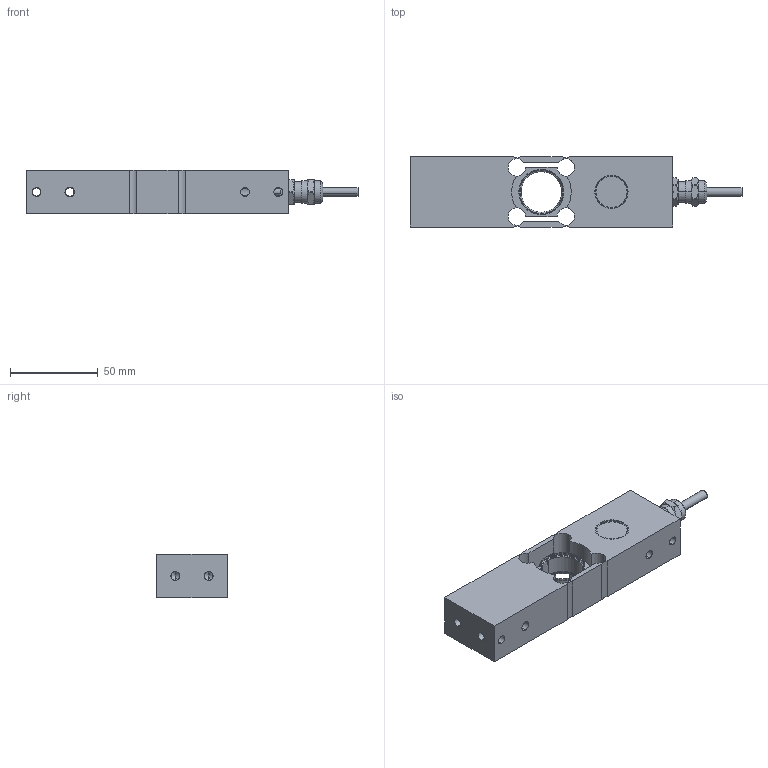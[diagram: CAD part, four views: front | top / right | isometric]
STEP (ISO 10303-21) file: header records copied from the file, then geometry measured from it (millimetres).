
FILE_DESCRIPTION (( 'STEP AP214' ), '1' );
FILE_NAME ('BM6G-20kg assy.STEP', '2012-06-11T14:13:45', ( 'gebruiker' ), ( '' ), 'SwSTEP 2.0', 'SolidWorks 2011', '' );
FILE_SCHEMA (( 'AUTOMOTIVE_DESIGN' ));
Length unit declared in the file: millimetre
Products named in the file (10): j-box cover; Cable 5mm diameter; BM6G cable gland assy; BM14G gland O-ring; BM14G Gland head; BM14G gland rubber; BM6G base parts; Tube; Element 20kg; BM6G-20kg assy
Assembly tree (9 placements, depth 3):
  BM6G-20kg assy
    BM6G cable gland assy
      BM14G Gland head
      BM14G gland O-ring
      BM6G base parts
      BM14G gland rubber
    Tube
    Cable 5mm diameter
    Element 20kg
    j-box cover
Bounding box: 189.5 x 40 x 25 mm (x, y, z)
Volume: 116706.9 mm3; surface area: 36782.7 mm2
Topology: 8 solids, 8 shells, 241 faces, 553 edges, 326 vertices
Faces by surface type: cylinder 108, plane 55, cone 46, torus 32
Entity records: 7891 total; most frequent: CARTESIAN_POINT 1575, DIRECTION 1293, ORIENTED_EDGE 1098, EDGE_CURVE 549, AXIS2_PLACEMENT_3D 548, VERTEX_POINT 326, CIRCLE 294, EDGE_LOOP 273
